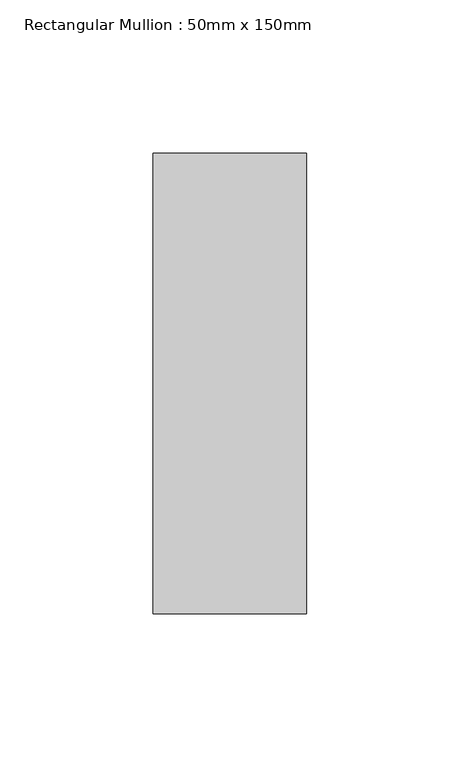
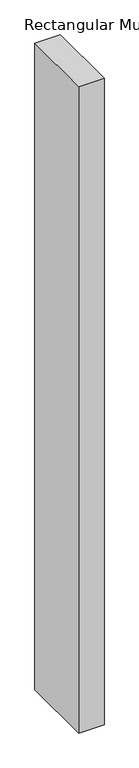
"""IFC4 building model written with IfcOpenShell, lengths in millimetres: member geometry, Rectangular Mullion : 50mm x 150mm."""

import ifcopenshell
import ifcopenshell.guid

model = None  # the IFC model being written
_history = None  # IfcOwnerHistory: only IFC2X3 demands one
_inside = {}  # id of a spatial element -> (the spatial element, [elements in it])
_under = {}  # id of a project, library or spatial element -> (it, [spatial elements below it])
_declared = {}  # id of a project -> (the project, [libraries it declares])
_typed = {}  # id of a type object -> (the type object, [elements of that type])
_made_of = {}  # id of a material, layer set ... -> (it, [elements and type objects made of it])


def new_model(schema):
    """Start an empty IFC model of exactly this schema.

    Asked for "IFC4X3", IfcOpenShell would pick the latest addendum, in which some entities
    have other attributes; the version numbers below select the first issue.
    IFC2X3 requires an IfcOwnerHistory on every rooted entity: one is made here for all.
    """
    global model, _history
    if schema == "IFC4X3":
        model = ifcopenshell.file(schema_version=(4, 3, 0, 0))
    else:
        model = ifcopenshell.file(schema=schema)
    _inside.clear()
    _under.clear()
    _declared.clear()
    _typed.clear()
    _made_of.clear()
    _history = None
    if model.schema == "IFC2X3":
        org = make("IfcOrganization", Name="unknown")
        user = make(
            "IfcPersonAndOrganization",
            ThePerson=make("IfcPerson", FamilyName="unknown"),
            TheOrganization=org,
        )
        app = make(
            "IfcApplication",
            ApplicationDeveloper=org,
            Version="unknown",
            ApplicationFullName="unknown",
            ApplicationIdentifier="unknown",
        )
        _history = make(
            "IfcOwnerHistory",
            OwningUser=user,
            OwningApplication=app,
            ChangeAction="ADDED",
            CreationDate=0,
        )
    return model


def make(cls, **values):
    """One entity of the class cls with the attributes given. An attribute that is None is left unset."""
    return model.create_entity(
        cls, **{name: value for name, value in values.items() if value is not None}
    )


def rooted(cls, **values):
    """An entity with a GlobalId (a new one), such as an element, a storey or a relation."""
    return make(cls, GlobalId=ifcopenshell.guid.new(), OwnerHistory=_history, **values)


def si_unit(unit_type, name, prefix=None):
    """IfcSIUnit, for example si_unit("LENGTHUNIT", "METRE", prefix="MILLI")."""
    return make("IfcSIUnit", UnitType=unit_type, Prefix=prefix, Name=name)


def assignment(units):
    """IfcUnitAssignment: the units of a project."""
    return None if units is None else make("IfcUnitAssignment", Units=units)


def point(xyz):
    """IfcCartesianPoint."""
    return None if xyz is None else make("IfcCartesianPoint", Coordinates=xyz)


def direction(xyz):
    """IfcDirection."""
    return None if xyz is None else make("IfcDirection", DirectionRatios=xyz)


def frame(location, z_axis=None, x_axis=None):
    """IfcAxis2Placement3D, a coordinate frame: its origin and axes. An axis left out is left unset."""
    return make(
        "IfcAxis2Placement3D",
        Location=point(location),
        Axis=direction(z_axis),
        RefDirection=direction(x_axis),
    )


def origin():
    """The frame at (0, 0, 0) with its axes left unset."""
    return frame((0.0, 0.0, 0.0))


def place(relative_to, where):
    """IfcLocalPlacement: puts the frame where relative to a parent placement (None: the world)."""
    return make(
        "IfcLocalPlacement", PlacementRelTo=relative_to, RelativePlacement=where
    )


def context(
    kind, dimensions, precision=None, world=None, true_north=None, identifier=None
):
    """IfcGeometricRepresentationContext, for example the 3D "Model" context."""
    return make(
        "IfcGeometricRepresentationContext",
        ContextIdentifier=identifier,
        ContextType=kind,
        CoordinateSpaceDimension=dimensions,
        Precision=precision,
        WorldCoordinateSystem=world,
        TrueNorth=true_north,
    )


def project(units=None, contexts=None):
    """IfcProject with its units and contexts."""
    return rooted(
        "IfcProject",
        Name="project",
        RepresentationContexts=contexts,
        UnitsInContext=assignment(units),
    )


def spatial(cls, under=None, at=None, **own):
    """A site, building, storey or space (cls), placed at a placement, below another one or the project."""
    s = rooted(cls, ObjectPlacement=at, **own)
    if under is not None:
        _under.setdefault(under.id(), (under, []))[1].append(s)
    return s


def polyline(points):
    """IfcPolyline through the points."""
    return make("IfcPolyline", Points=[point(p) for p in points])


def outline(outer, holes=None, kind="AREA"):
    """IfcArbitraryClosedProfileDef: a profile drawn as a closed curve; with holes, ...WithVoids."""
    if holes is None:
        return make("IfcArbitraryClosedProfileDef", ProfileType=kind, OuterCurve=outer)
    return make(
        "IfcArbitraryProfileDefWithVoids",
        ProfileType=kind,
        OuterCurve=outer,
        InnerCurves=holes,
    )


def extrude(swept, where, along, depth):
    """IfcExtrudedAreaSolid: the profile swept, set in the frame where, extruded along a direction by depth."""
    return make(
        "IfcExtrudedAreaSolid",
        SweptArea=swept,
        Position=where,
        ExtrudedDirection=direction(along),
        Depth=depth,
    )


def shape(context_of_items, identifier, shape_type, items):
    """IfcShapeRepresentation: the items that make up one representation, for example the "Body"."""
    return make(
        "IfcShapeRepresentation",
        ContextOfItems=context_of_items,
        RepresentationIdentifier=identifier,
        RepresentationType=shape_type,
        Items=items,
    )


def source(mapping_origin, context_of_items, identifier, shape_type, items):
    """IfcRepresentationMap: a shape defined once, which mapped items show again and again."""
    return make(
        "IfcRepresentationMap",
        MappingOrigin=mapping_origin,
        MappedRepresentation=shape(context_of_items, identifier, shape_type, items),
    )


def transform(
    local_origin,
    x_axis=None,
    y_axis=None,
    z_axis=None,
    scale=None,
    scale2=None,
    scale3=None,
    uniform=True,
):
    """IfcCartesianTransformationOperator3D, or its non-uniform kind. x_axis, y_axis, z_axis: its Axis1, 2, 3."""
    if uniform:
        return make(
            "IfcCartesianTransformationOperator3D",
            Axis1=direction(x_axis),
            Axis2=direction(y_axis),
            LocalOrigin=point(local_origin),
            Scale=scale,
            Axis3=direction(z_axis),
        )
    return make(
        "IfcCartesianTransformationOperator3DnonUniform",
        Axis1=direction(x_axis),
        Axis2=direction(y_axis),
        LocalOrigin=point(local_origin),
        Scale=scale,
        Axis3=direction(z_axis),
        Scale2=scale2,
        Scale3=scale3,
    )


def mapped(mapping_source, mapping_target):
    """IfcMappedItem: shows the shape of a source again, moved by a transform."""
    return make(
        "IfcMappedItem", MappingSource=mapping_source, MappingTarget=mapping_target
    )


def made_of(thing, what):
    """Note that an element or type object is made of a material, layer set ...; save() writes the relation."""
    if what is not None:
        _made_of.setdefault(what.id(), (what, []))[1].append(thing)
    return thing


def element(
    cls,
    number,
    at=None,
    inside=None,
    cuts=None,
    type_object=None,
    material=None,
    context=None,
    identifier="Body",
    shape_type=None,
    held_by="IfcProductDefinitionShape",
    body=None,
    shapes=None,
    **own,
):
    """One element of the class cls, such as IfcWall. Its Tag is "e" and its number.

    at: its placement. inside: the storey or other place that contains it. cuts: it is an
    opening in that element (IfcRelVoidsElement). A single representation is given by context,
    identifier, shape_type and body (its items); several are given by shapes. held_by: the class
    of the entity that holds the representations. save() writes the other relations.
    """
    e = rooted(cls, Tag="e%d" % number, ObjectPlacement=at, **own)
    if body is not None:
        shapes = [shape(context, identifier, shape_type, body)]
    if shapes is not None:
        e.Representation = make(held_by, Representations=shapes)
    if inside is not None:
        _inside.setdefault(inside.id(), (inside, []))[1].append(e)
    if cuts is not None:
        rooted(
            "IfcRelVoidsElement", RelatingBuildingElement=cuts, RelatedOpeningElement=e
        )
    if type_object is not None:
        _typed.setdefault(type_object.id(), (type_object, []))[1].append(e)
    return made_of(e, material)


def aggregate(whole, parts):
    """IfcRelAggregates: a whole, such as a stair, and the parts it consists of."""
    return rooted("IfcRelAggregates", RelatingObject=whole, RelatedObjects=parts)


def save(model, path):
    """Write the relations noted so far, then the file.

    IfcRelAggregates (storeys below a building ...), IfcRelContainedInSpatialStructure (elements
    in a storey), IfcRelDefinesByType, IfcRelAssociatesMaterial and IfcRelDeclares: one each for
    every whole, place, type object, material and project.
    """
    for whole, parts in _under.values():
        aggregate(whole, parts)
    for where, things in _inside.values():
        rooted(
            "IfcRelContainedInSpatialStructure",
            RelatedElements=things,
            RelatingStructure=where,
        )
    for kind, things in _typed.values():
        rooted("IfcRelDefinesByType", RelatedObjects=things, RelatingType=kind)
    for what, things in _made_of.values():
        rooted("IfcRelAssociatesMaterial", RelatedObjects=things, RelatingMaterial=what)
    for by, libraries in _declared.values():
        rooted("IfcRelDeclares", RelatingContext=by, RelatedDefinitions=libraries)
    model.write(path)


def rectangular_mullion_50mm_x_150mm_a1e97725(model_context):
    return source(origin(), model_context, "Body", "SweptSolid", [
        extrude(outline(polyline([(25.0, 75.0), (25.0, -75.0), (-25.0, -75.0), (-25.0, 75.0), (25.0, 75.0)])), frame((0.0, 0.0, -1349.9999999), z_axis=(0.0, 0.0, 1.0), x_axis=(1.0, 0.0, 0.0)), (0.0, 0.0, 1.0), 1349.9999999),
    ])


if __name__ == "__main__":
    model = new_model("IFC4")
    model_context = context("Model", 3, world=origin())
    ifc_project = project(units=[si_unit("LENGTHUNIT", "METRE", prefix="MILLI")], contexts=[model_context])
    site = spatial("IfcSite", under=ifc_project)
    building = spatial("IfcBuilding", under=site)
    placement = place(None, origin())
    rectangular_mullion_50mm_x_150mm_shape = rectangular_mullion_50mm_x_150mm_a1e97725(model_context)
    element("IfcMember", 1, ObjectType="Rectangular Mullion : 50mm x 150mm", at=placement, inside=building, context=model_context, shape_type="MappedRepresentation", body=[
        mapped(rectangular_mullion_50mm_x_150mm_shape, transform((0.0, 0.0, 0.0), x_axis=(1.0, 0.0, 0.0), y_axis=(0.0, 1.0, 0.0), z_axis=(0.0, 0.0, 1.0))),
    ])
    save(model, "model.ifc")
